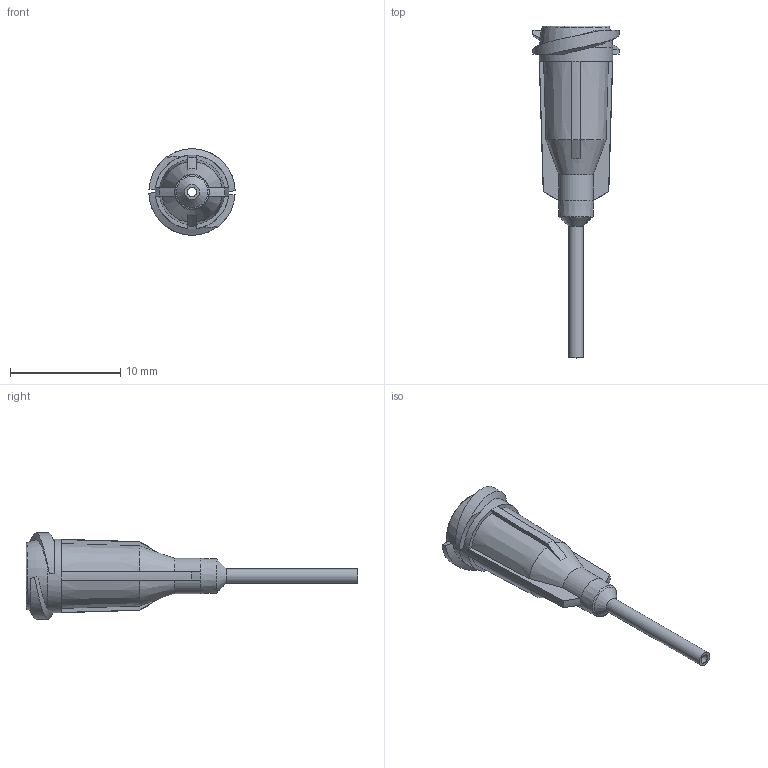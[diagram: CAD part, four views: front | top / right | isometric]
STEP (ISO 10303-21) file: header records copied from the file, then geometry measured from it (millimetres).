
FILE_DESCRIPTION (( 'STEP AP214' ), '1' );
FILE_NAME ('DAV PP 18 05.STEP', '2023-09-28T15:13:34', ( '' ), ( '' ), 'SwSTEP 2.0', 'SolidWorks 2022', '' );
FILE_SCHEMA (( 'AUTOMOTIVE_DESIGN' ));
Length unit declared in the file: millimetre
Products named in the file (1): DAV PP 18 05
Bounding box: 7.82 x 30.07 x 7.82 mm (x, y, z)
Volume: 271.7 mm3; surface area: 622.6 mm2
Topology: 1 solids, 1 shells, 63 faces, 161 edges, 101 vertices
Faces by surface type: plane 23, cone 16, bspline 10, cylinder 7, torus 7
Full cylindrical faces by diameter (mm): 0.84 x1, 1.35 x1, 2.87 x1, 6.655 x1
Entity records: 2066 total; most frequent: CARTESIAN_POINT 796, ORIENTED_EDGE 262, DIRECTION 228, EDGE_CURVE 131, AXIS2_PLACEMENT_3D 99, VERTEX_POINT 89, EDGE_LOOP 80, FACE_OUTER_BOUND 71
